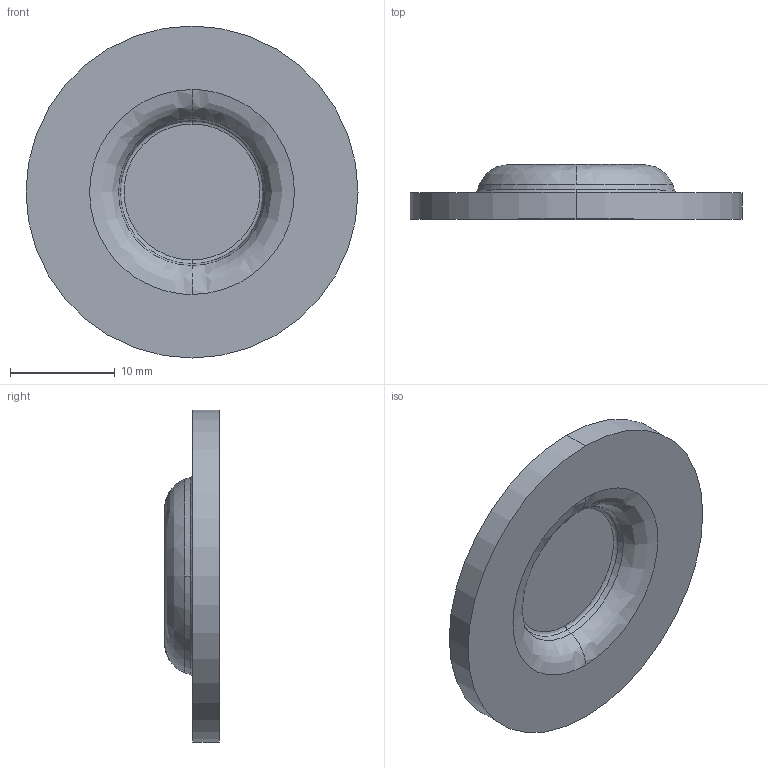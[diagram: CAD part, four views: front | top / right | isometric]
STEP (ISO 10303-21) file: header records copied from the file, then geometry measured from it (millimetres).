
FILE_DESCRIPTION (( 'STEP AP203' ), '1' );
FILE_NAME ('SO 1946116-30.STEP', '2024-09-16T14:54:20', ( '' ), ( '' ), 'SwSTEP 2.0', 'SolidWorks 2024', '' );
FILE_SCHEMA (( 'CONFIG_CONTROL_DESIGN' ));
Length unit declared in the file: inch
Products named in the file (1): SO 1946116-30
Bounding box: 31.75 x 5.23 x 31.75 mm (x, y, z)
Volume: 2179.4 mm3; surface area: 1969.2 mm2
Topology: 1 solids, 1 shells, 18 faces, 38 edges, 24 vertices
Faces by surface type: bspline 8, cone 4, plane 4, cylinder 2
Entity records: 827 total; most frequent: CARTESIAN_POINT 389, ORIENTED_EDGE 76, DIRECTION 76, EDGE_CURVE 38, AXIS2_PLACEMENT_3D 35, CIRCLE 24, VERTEX_POINT 24, EDGE_LOOP 20
